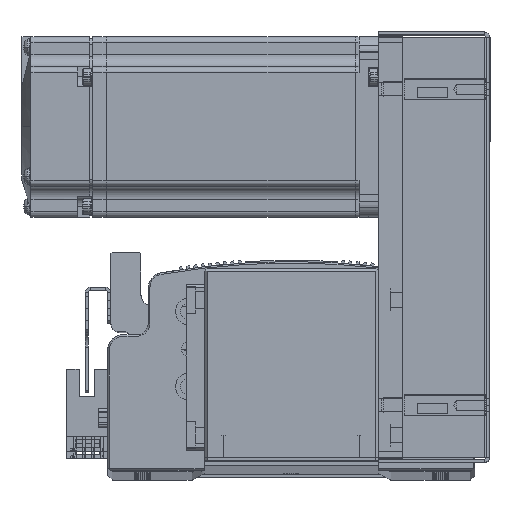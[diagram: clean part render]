
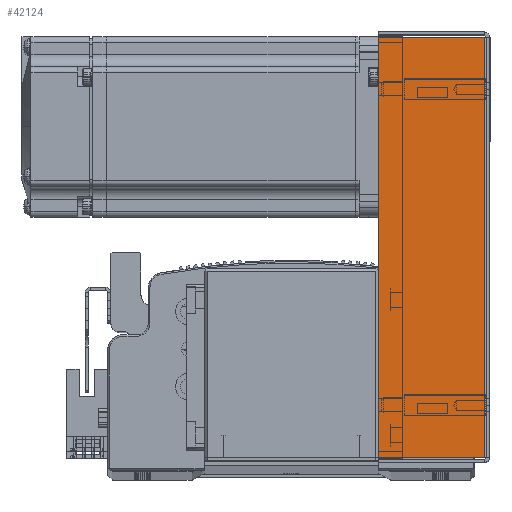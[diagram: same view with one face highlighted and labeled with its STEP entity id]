
A CAD part, top view. The second image highlights one B-rep face of the part: STEP entity #42124.
In plain terms, the highlighted planar face has unit normal (0, 0, 1) as drawn and (0, 0, -1) by its records, which use the part's own axes.
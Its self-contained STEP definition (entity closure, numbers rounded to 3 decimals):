
#385 = EDGE_LOOP ( 'NONE', ( #62642, #68337, #62634, #68320 ) ) ;
#9918 = DIRECTION ( 'NONE',  ( 1., 0., 0. ) ) ;
#9973 = CARTESIAN_POINT ( 'NONE',  ( 0., 36., -33.5 ) ) ;
#13677 = VERTEX_POINT ( 'NONE', #80245 ) ;
#13680 = VERTEX_POINT ( 'NONE', #80229 ) ;
#13719 = VERTEX_POINT ( 'NONE', #80217 ) ;
#13728 = VERTEX_POINT ( 'NONE', #80233 ) ;
#14653 = DIRECTION ( 'NONE',  ( 1., 0., 0. ) ) ;
#14678 = CARTESIAN_POINT ( 'NONE',  ( 71.5, 0.737, -33.5 ) ) ;
#14728 = DIRECTION ( 'NONE',  ( 0., 1., 0. ) ) ;
#14734 = CARTESIAN_POINT ( 'NONE',  ( -69.793, 0., -33.5 ) ) ;
#14884 = CARTESIAN_POINT ( 'NONE',  ( 69.793, 0., -33.5 ) ) ;
#14919 = DIRECTION ( 'NONE',  ( 0., 1., 0. ) ) ;
#18273 = AXIS2_PLACEMENT_3D ( 'NONE', #67983, #68039, #68045 ) ;
#20918 = LINE ( 'NONE', #14734, #20920 ) ;
#20920 = VECTOR ( 'NONE', #14728, 1000. ) ;
#20955 = LINE ( 'NONE', #14678, #21064 ) ;
#21064 = VECTOR ( 'NONE', #14653, 1000. ) ;
#21294 = VECTOR ( 'NONE', #14919, 1000. ) ;
#21373 = LINE ( 'NONE', #14884, #21294 ) ;
#21454 = LINE ( 'NONE', #9973, #21549 ) ;
#21549 = VECTOR ( 'NONE', #9918, 1000. ) ;
#37020 = FACE_OUTER_BOUND ( 'NONE', #385, .T. ) ;
#42124 = ADVANCED_FACE ( 'NONE', ( #37020 ), #67986, .F. ) ;
#62634 = ORIENTED_EDGE ( 'NONE', *, *, #77698, .T. ) ;
#62642 = ORIENTED_EDGE ( 'NONE', *, *, #77576, .F. ) ;
#67983 = CARTESIAN_POINT ( 'NONE',  ( 0., 0., -33.5 ) ) ;
#67986 = PLANE ( 'NONE',  #18273 ) ;
#68039 = DIRECTION ( 'NONE',  ( 0., 0., 1. ) ) ;
#68045 = DIRECTION ( 'NONE',  ( 0., -1., 0. ) ) ;
#68320 = ORIENTED_EDGE ( 'NONE', *, *, #77651, .F. ) ;
#68337 = ORIENTED_EDGE ( 'NONE', *, *, #77598, .T. ) ;
#77576 = EDGE_CURVE ( 'NONE', #13677, #13719, #20955, .T. ) ;
#77598 = EDGE_CURVE ( 'NONE', #13677, #13728, #20918, .T. ) ;
#77651 = EDGE_CURVE ( 'NONE', #13719, #13680, #21373, .T. ) ;
#77698 = EDGE_CURVE ( 'NONE', #13728, #13680, #21454, .T. ) ;
#80217 = CARTESIAN_POINT ( 'NONE',  ( 69.793, 0.737, -33.5 ) ) ;
#80229 = CARTESIAN_POINT ( 'NONE',  ( 69.793, 36., -33.5 ) ) ;
#80233 = CARTESIAN_POINT ( 'NONE',  ( -69.793, 36., -33.5 ) ) ;
#80245 = CARTESIAN_POINT ( 'NONE',  ( -69.793, 0.737, -33.5 ) ) ;
